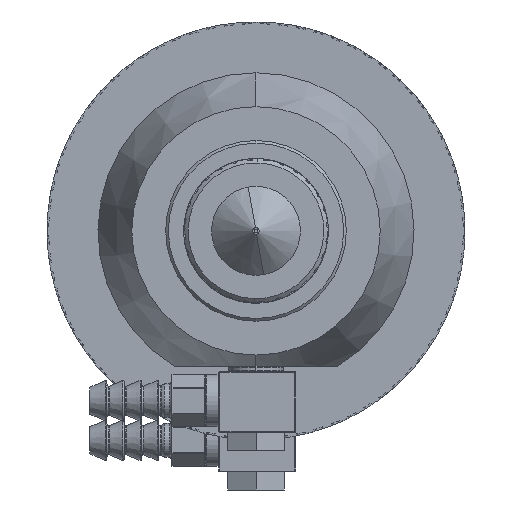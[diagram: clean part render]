
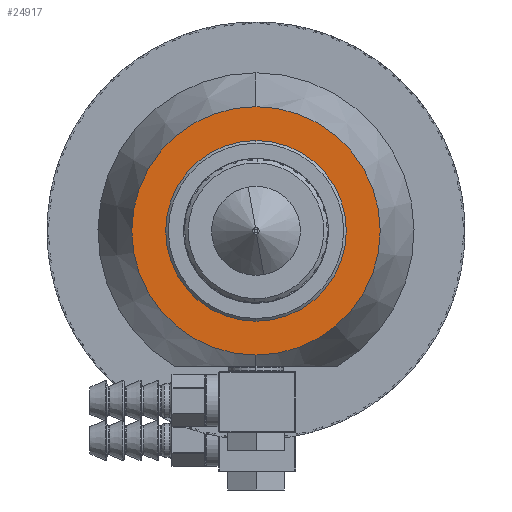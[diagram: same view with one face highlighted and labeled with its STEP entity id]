
A CAD part, front view. The second image highlights one B-rep face of the part: STEP entity #24917.
In plain terms, the highlighted planar face has unit normal (0, -1, 0).
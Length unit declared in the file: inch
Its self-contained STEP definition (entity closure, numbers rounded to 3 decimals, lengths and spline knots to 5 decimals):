
#987 = ORIENTED_EDGE ( 'NONE', *, *, #16826, .F. ) ;
#1517 = ORIENTED_EDGE ( 'NONE', *, *, #43386, .F. ) ;
#1707 = EDGE_CURVE ( 'NONE', #21803, #37182, #11766, .T. ) ;
#3672 = CARTESIAN_POINT ( 'NONE',  ( 1.37239, -2.80502, 1.08543 ) ) ;
#5247 = VERTEX_POINT ( 'NONE', #3672 ) ;
#6318 = CARTESIAN_POINT ( 'NONE',  ( 1.37239, -2.80502, 0.39793 ) ) ;
#11766 = CIRCLE ( 'NONE', #26820, 0.5 ) ;
#13107 = CIRCLE ( 'NONE', #36812, 0.5 ) ;
#13650 = CARTESIAN_POINT ( 'NONE',  ( 1.37239, -2.80502, 0.39793 ) ) ;
#16619 = EDGE_CURVE ( 'NONE', #38020, #5247, #18260, .T. ) ;
#16826 = EDGE_CURVE ( 'NONE', #5247, #38020, #54891, .T. ) ;
#18260 = CIRCLE ( 'NONE', #23971, 0.6875 ) ;
#19199 = AXIS2_PLACEMENT_3D ( 'NONE', #6318, #29940, #24712 ) ;
#19895 = DIRECTION ( 'NONE',  ( 0., -1., 0. ) ) ;
#20595 = DIRECTION ( 'NONE',  ( 0., 0., 1. ) ) ;
#21803 = VERTEX_POINT ( 'NONE', #21927 ) ;
#21927 = CARTESIAN_POINT ( 'NONE',  ( 1.37239, -2.80502, -0.10207 ) ) ;
#22638 = DIRECTION ( 'NONE',  ( 0., 1., 0. ) ) ;
#23035 = FACE_OUTER_BOUND ( 'NONE', #52372, .T. ) ;
#23971 = AXIS2_PLACEMENT_3D ( 'NONE', #13650, #22638, #51766 ) ;
#24712 = DIRECTION ( 'NONE',  ( 0., 0., 1. ) ) ;
#24917 = ADVANCED_FACE ( 'NONE', ( #37330, #23035 ), #35145, .F. ) ;
#26098 = DIRECTION ( 'NONE',  ( 0., 1., 0. ) ) ;
#26820 = AXIS2_PLACEMENT_3D ( 'NONE', #53275, #49320, #20595 ) ;
#29940 = DIRECTION ( 'NONE',  ( 0., 1., 0. ) ) ;
#32938 = AXIS2_PLACEMENT_3D ( 'NONE', #59020, #26098, #49419 ) ;
#35145 = PLANE ( 'NONE',  #32938 ) ;
#35240 = EDGE_LOOP ( 'NONE', ( #1517, #60489 ) ) ;
#36812 = AXIS2_PLACEMENT_3D ( 'NONE', #53826, #19895, #39014 ) ;
#37182 = VERTEX_POINT ( 'NONE', #41138 ) ;
#37330 = FACE_BOUND ( 'NONE', #35240, .T. ) ;
#38020 = VERTEX_POINT ( 'NONE', #54657 ) ;
#39014 = DIRECTION ( 'NONE',  ( 0., 0., 1. ) ) ;
#41138 = CARTESIAN_POINT ( 'NONE',  ( 1.37239, -2.80502, 0.89793 ) ) ;
#43386 = EDGE_CURVE ( 'NONE', #37182, #21803, #13107, .T. ) ;
#49320 = DIRECTION ( 'NONE',  ( 0., -1., 0. ) ) ;
#49419 = DIRECTION ( 'NONE',  ( 0., 0., 1. ) ) ;
#50774 = ORIENTED_EDGE ( 'NONE', *, *, #16619, .F. ) ;
#51766 = DIRECTION ( 'NONE',  ( 0., 0., 1. ) ) ;
#52372 = EDGE_LOOP ( 'NONE', ( #987, #50774 ) ) ;
#53275 = CARTESIAN_POINT ( 'NONE',  ( 1.37239, -2.80502, 0.39793 ) ) ;
#53826 = CARTESIAN_POINT ( 'NONE',  ( 1.37239, -2.80502, 0.39793 ) ) ;
#54657 = CARTESIAN_POINT ( 'NONE',  ( 1.37239, -2.80502, -0.28957 ) ) ;
#54891 = CIRCLE ( 'NONE', #19199, 0.6875 ) ;
#59020 = CARTESIAN_POINT ( 'NONE',  ( 1.87239, -2.80502, 0.39793 ) ) ;
#60489 = ORIENTED_EDGE ( 'NONE', *, *, #1707, .F. ) ;
